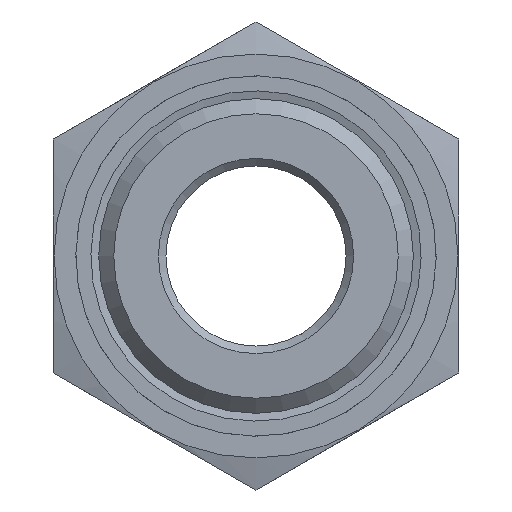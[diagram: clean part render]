
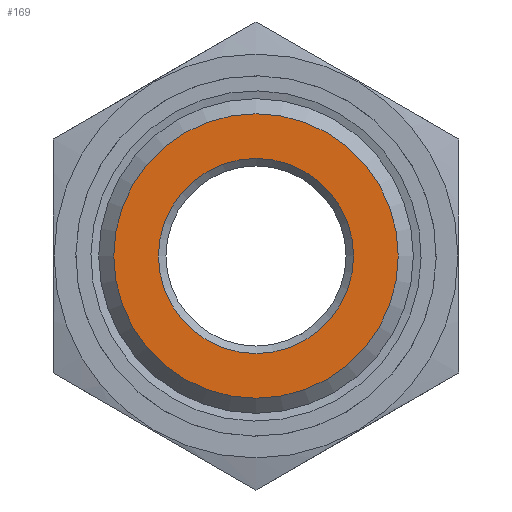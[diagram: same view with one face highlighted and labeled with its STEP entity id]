
A CAD part, left-side view. The second image highlights one B-rep face of the part: STEP entity #169.
In plain terms, the highlighted planar face has unit normal (-1, 0, 0).
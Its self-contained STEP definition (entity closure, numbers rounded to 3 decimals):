
#169 = ADVANCED_FACE( '', ( #339, #340 ), #341, .T. );
#339 = FACE_BOUND( '', #495, .T. );
#340 = FACE_OUTER_BOUND( '', #496, .T. );
#341 = PLANE( '', #497 );
#495 = EDGE_LOOP( '', ( #733 ) );
#496 = EDGE_LOOP( '', ( #734 ) );
#497 = AXIS2_PLACEMENT_3D( '', #735, #736, #737 );
#733 = ORIENTED_EDGE( '', *, *, #783, .T. );
#734 = ORIENTED_EDGE( '', *, *, #791, .T. );
#735 = CARTESIAN_POINT( '', ( -41., -13.5, -7.794 ) );
#736 = DIRECTION( '', ( -1., 0., 0. ) );
#737 = DIRECTION( '', ( 0., -1., 0. ) );
#783 = EDGE_CURVE( '', #886, #886, #887, .F. );
#791 = EDGE_CURVE( '', #899, #899, #900, .T. );
#886 = VERTEX_POINT( '', #1051 );
#887 = CIRCLE( '', #1052, 6.5 );
#899 = VERTEX_POINT( '', #1064 );
#900 = CIRCLE( '', #1065, 9.478 );
#1051 = CARTESIAN_POINT( '', ( -41., -6.5, 0. ) );
#1052 = AXIS2_PLACEMENT_3D( '', #1236, #1237, #1238 );
#1064 = CARTESIAN_POINT( '', ( -41., -9.478, 0. ) );
#1065 = AXIS2_PLACEMENT_3D( '', #1251, #1252, #1253 );
#1236 = CARTESIAN_POINT( '', ( -41., 0., 0. ) );
#1237 = DIRECTION( '', ( -1., 0., 0. ) );
#1238 = DIRECTION( '', ( 0., -1., 0. ) );
#1251 = CARTESIAN_POINT( '', ( -41., 0., 0. ) );
#1252 = DIRECTION( '', ( -1., 0., 0. ) );
#1253 = DIRECTION( '', ( 0., -1., 0. ) );
